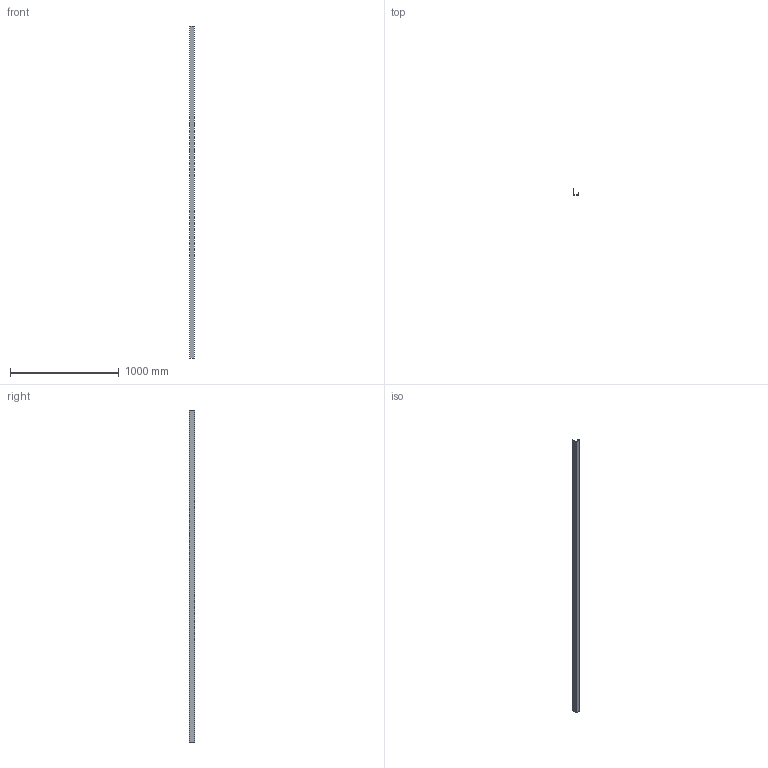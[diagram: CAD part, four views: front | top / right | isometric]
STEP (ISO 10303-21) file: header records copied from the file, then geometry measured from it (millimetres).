
FILE_DESCRIPTION (( 'STEP AP203' ), '1' );
FILE_NAME ('M01B.STEP', '2018-06-18T16:31:19', ( 'Michael Moliner' ), ( '' ), 'SwSTEP 2.0', 'SolidWorks 2018', '' );
FILE_SCHEMA (( 'CONFIG_CONTROL_DESIGN' ));
Length unit declared in the file: inch
Products named in the file (2): M01B
Bounding box: 43.82 x 53.98 x 3048 mm (x, y, z)
Volume: 208425 mm3; surface area: 823804.4 mm2
Topology: 1 solids, 1 shells, 18 faces, 48 edges, 32 vertices
Faces by surface type: plane 12, cylinder 6
Entity records: 721 total; most frequent: DIRECTION 100, CARTESIAN_POINT 100, ORIENTED_EDGE 96, EDGE_CURVE 48, LINE 36, VECTOR 36, VERTEX_POINT 32, AXIS2_PLACEMENT_3D 32
